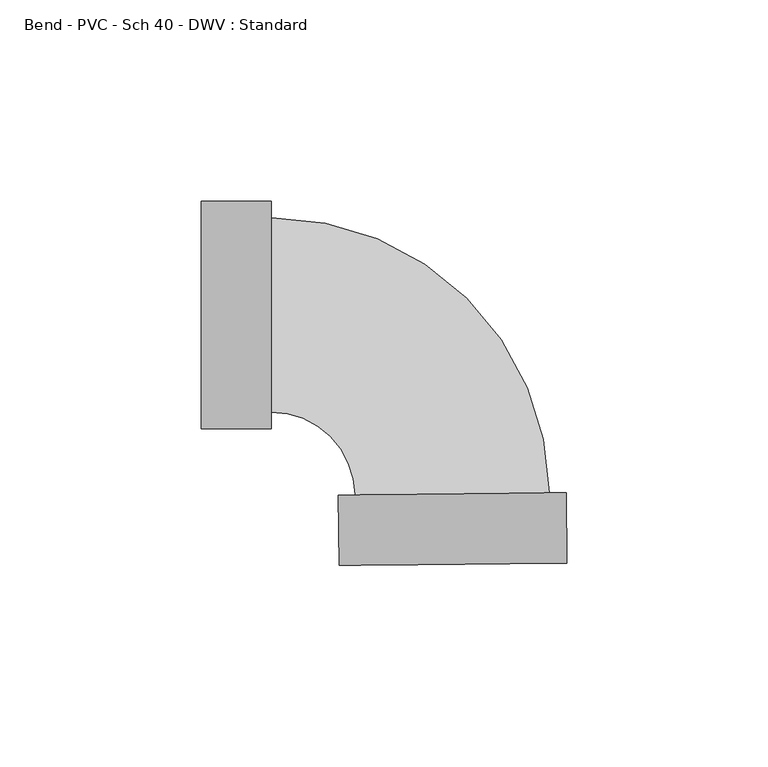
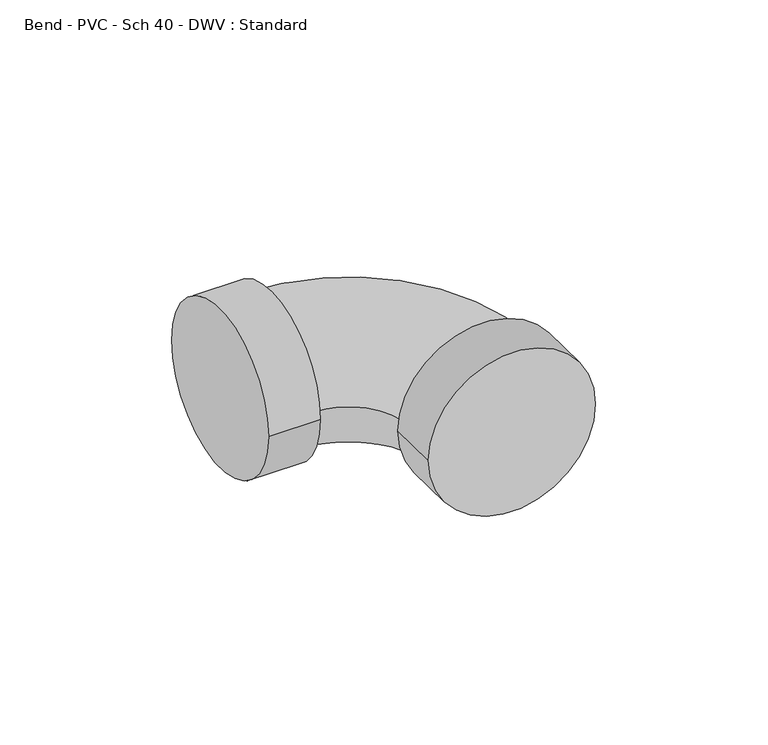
"""IFC4 building model written with IfcOpenShell, lengths in millimetres: pipe fitting geometry, Bend - PVC - Sch 40 - DWV : Standard."""

from ifc_helpers import new_model, si_unit, point, frame, origin, place, context, project, spatial, circle_curve, ellipse_curve, trimmed, source, transform, mapped, element, save
from ifc_brep_helpers import plane_surface, cylinder_surface, revolved_surface, advanced_brep


def bend_pvc_sch_40_dwv_standard_80f96eb1(model_context):
    return source(origin(), model_context, "Body", "AdvancedBrep", [
        advanced_brep(
        [(-61.8998, 28.2829, 0.0), (-61.8998, -28.2829, 0.0), (-44.45, 28.2829, 0.0), (-44.45, -28.2829, 0.0), (-44.45, 24.13, 0.0), (-44.45, -24.13, 0.0), (-23.6656953, -44.6989292, 0.0), (24.5916867, -44.1962481, 0.0), (28.7443614, -44.1529911, 0.0), (-27.81837, -44.7421862, 0.0), (28.9261203, -61.6018444, 0.0), (-27.6366111, -62.1910396, 0.0)],
        [
            (0, 1, circle_curve(frame((-61.8998, 0.0, 0.0), z_axis=(-1.0, 0.0, 0.0), x_axis=(0.0, -1.0, 0.0)), 28.2829)),
            (1, 0, circle_curve(frame((-61.8998, 0.0, 0.0), z_axis=(-1.0, 0.0, 0.0), x_axis=(0.0, -1.0, 0.0)), 28.2829)),
            (2, 3, circle_curve(frame((-44.45, 0.0, 0.0), z_axis=(1.0, 0.0, 0.0), x_axis=(0.0, -1.0, 0.0)), 28.2829)),
            (3, 2, circle_curve(frame((-44.45, 0.0, 0.0), z_axis=(1.0, 0.0, 0.0), x_axis=(0.0, -1.0, 0.0)), 28.2829)),
            (4, 5, circle_curve(frame((-44.45, 0.0, 0.0), z_axis=(-1.0, 0.0, 0.0), x_axis=(0.0, -1.0, 0.0)), 24.13)),
            (5, 4, circle_curve(frame((-44.45, 0.0, 0.0), z_axis=(-1.0, 0.0, 0.0), x_axis=(0.0, -1.0, 0.0)), 24.13)),
            (1, 3),
            (2, 0),
            (6, 7, circle_curve(frame((0.4629957, -44.4475886, 0.0), z_axis=(-0.010416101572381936, 0.9999457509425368, 0.0), x_axis=(-0.9999457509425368, -0.010416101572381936, 0.0)), 24.13)),
            (7, 4, circle_curve(frame((-44.45, -44.9154323, 0.0), z_axis=(0.0, 0.0, 1.0), x_axis=(0.0, 1.0, 0.0)), 69.0454323)),
            (5, 6, circle_curve(frame((-44.45, -44.9154323, 0.0), z_axis=(0.0, 0.0, -1.0), x_axis=(0.0, 1.0, 0.0)), 20.7854323)),
            (7, 6, circle_curve(frame((0.4629957, -44.4475886, 0.0), z_axis=(-0.010416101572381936, 0.9999457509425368, 0.0), x_axis=(-0.9999457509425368, -0.010416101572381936, 0.0)), 24.13)),
            (8, 9, circle_curve(frame((0.4629957, -44.4475886, 0.0), z_axis=(-0.010416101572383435, 0.9999457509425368, 0.0), x_axis=(-0.9999457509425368, -0.010416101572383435, 0.0)), 28.2829)),
            (9, 8, circle_curve(frame((0.4629957, -44.4475886, 0.0), z_axis=(-0.010416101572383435, 0.9999457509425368, 0.0), x_axis=(-0.9999457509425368, -0.010416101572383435, 0.0)), 28.2829)),
            (10, 11, circle_curve(frame((0.6447546, -61.896442, 0.0), z_axis=(0.010416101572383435, -0.9999457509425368, 0.0), x_axis=(-0.9999457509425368, -0.010416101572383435, 0.0)), 28.2829)),
            (11, 10, circle_curve(frame((0.6447546, -61.896442, 0.0), z_axis=(0.010416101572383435, -0.9999457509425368, 0.0), x_axis=(-0.9999457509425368, -0.010416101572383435, 0.0)), 28.2829)),
            (9, 11),
            (10, 8),
        ],
        [
            plane_surface(frame((-61.8998, 0.0, 0.0), z_axis=(-1.0, 0.0, 0.0), x_axis=(0.0, 0.0, 1.0))),
            plane_surface(frame((-44.45, 0.0, 0.0), z_axis=(1.0, 0.0, 0.0), x_axis=(0.0, 0.0, 1.0))),
            cylinder_surface(frame((-61.8998, 0.0, 0.0), z_axis=(-1.0, 0.0, 0.0), x_axis=(0.0, -1.0, 0.0)), 28.2829),
            revolved_surface(trimmed(ellipse_curve(frame((-44.45, 0.0, 0.0), z_axis=(1.0, 0.0, 0.0), x_axis=(0.0, -1.0, 0.0)), 24.13, 24.13), [point((-44.45, 24.13, 0.0))], [point((-44.45, -24.13, 0.0))], True, "CARTESIAN"), (-44.45, -44.9154323, 0.0), (0.0, 0.0, 1.0)),
            revolved_surface(trimmed(ellipse_curve(frame((-44.45, 0.0, 0.0), z_axis=(1.0, 0.0, 0.0), x_axis=(0.0, -1.0, 0.0)), 24.13, 24.13), [point((-44.45, -24.13, 0.0))], [point((-44.45, 24.13, 0.0))], True, "CARTESIAN"), (-44.45, -44.9154323, 0.0), (0.0, 0.0, 1.0)),
            plane_surface(frame((0.4629957, -44.4475886, 0.0), z_axis=(-0.010416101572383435, 0.9999457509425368, 0.0), x_axis=(0.0, 0.0, 1.0))),
            plane_surface(frame((0.6447546, -61.896442, 0.0), z_axis=(0.010416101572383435, -0.9999457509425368, 0.0), x_axis=(0.0, 0.0, 1.0))),
            cylinder_surface(frame((0.4629957, -44.4475886, 0.0), z_axis=(-0.010416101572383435, 0.9999457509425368, 0.0), x_axis=(-0.9999457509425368, -0.010416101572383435, 0.0)), 28.2829),
        ],
        [
            (0, [[1, 2]]),
            (1, [[3, 4], [5, 6]]),
            (2, [[7, -3, 8, -2]]),
            (2, [[-8, -4, -7, -1]]),
            (3, [[9, 10, -6, 11]]),
            (4, [[-5, -10, 12, -11]]),
            (5, [[13, 14], [-12, -9]]),
            (6, [[15, 16]]),
            (7, [[17, -15, 18, -14]]),
            (7, [[-18, -16, -17, -13]]),
        ],
    ),
    ])


if __name__ == "__main__":
    model = new_model("IFC4")
    model_context = context("Model", 3, world=origin())
    ifc_project = project(units=[si_unit("LENGTHUNIT", "METRE", prefix="MILLI")], contexts=[model_context])
    site = spatial("IfcSite", under=ifc_project)
    building = spatial("IfcBuilding", under=site)
    placement = place(None, origin())
    bend_pvc_sch_40_dwv_standard_shape = bend_pvc_sch_40_dwv_standard_80f96eb1(model_context)
    element("IfcPipeFitting", 1, ObjectType="Bend - PVC - Sch 40 - DWV : Standard", at=placement, inside=building, context=model_context, shape_type="MappedRepresentation", body=[
        mapped(bend_pvc_sch_40_dwv_standard_shape, transform((0.0, 0.0, 0.0), x_axis=(1.0, 0.0, 0.0), y_axis=(0.0, 1.0, 0.0), z_axis=(0.0, 0.0, 1.0))),
    ])
    save(model, "model.ifc")
